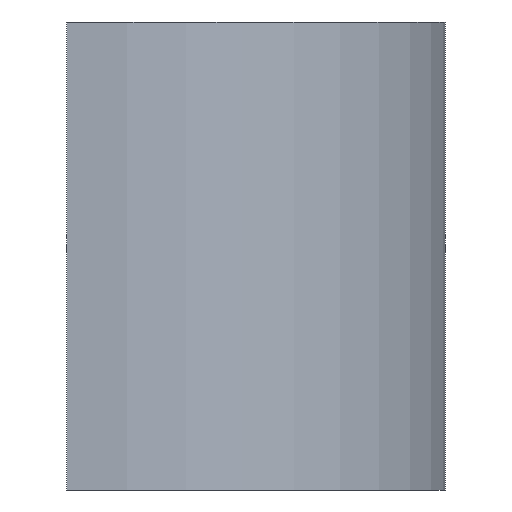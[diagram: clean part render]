
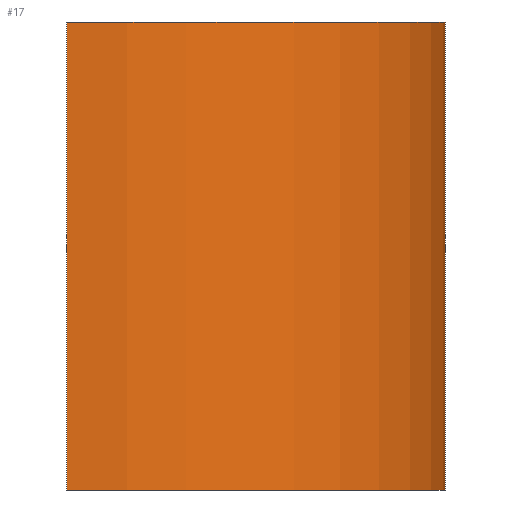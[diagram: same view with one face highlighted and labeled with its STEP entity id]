
A CAD part, left-side view. The second image highlights one B-rep face of the part: STEP entity #17.
In plain terms, the highlighted cylindrical face has radius 16 mm (diameter 32 mm), a partial arc.
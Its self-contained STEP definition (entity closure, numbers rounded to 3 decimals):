
#17 = ADVANCED_FACE('',(#18),#33,.T.);
#18 = FACE_BOUND('',#19,.F.);
#19 = EDGE_LOOP('',(#20,#56,#82,#111));
#20 = ORIENTED_EDGE('',*,*,#21,.F.);
#21 = EDGE_CURVE('',#22,#24,#26,.T.);
#22 = VERTEX_POINT('',#23);
#23 = CARTESIAN_POINT('',(30.031,22.5,0.5));
#24 = VERTEX_POINT('',#25);
#25 = CARTESIAN_POINT('',(60.,13.754,0.5));
#26 = SURFACE_CURVE('',#27,(#32,#44),.PCURVE_S1.);
#27 = CIRCLE('',#28,16.);
#28 = AXIS2_PLACEMENT_3D('',#29,#30,#31);
#29 = CARTESIAN_POINT('',(46.,21.5,0.5));
#30 = DIRECTION('',(0.,0.,1.));
#31 = DIRECTION('',(1.,0.,0.));
#32 = PCURVE('',#33,#38);
#33 = CYLINDRICAL_SURFACE('',#34,16.);
#34 = AXIS2_PLACEMENT_3D('',#35,#36,#37);
#35 = CARTESIAN_POINT('',(46.,21.5,0.5));
#36 = DIRECTION('',(-0.,-0.,-1.));
#37 = DIRECTION('',(1.,0.,0.));
#38 = DEFINITIONAL_REPRESENTATION('',(#39),#43);
#39 = LINE('',#40,#41);
#40 = CARTESIAN_POINT('',(-0.,0.));
#41 = VECTOR('',#42,1.);
#42 = DIRECTION('',(-1.,0.));
#43 = ( GEOMETRIC_REPRESENTATION_CONTEXT(2) 
PARAMETRIC_REPRESENTATION_CONTEXT() REPRESENTATION_CONTEXT('2D SPACE',''
  ) );
#44 = PCURVE('',#45,#50);
#45 = PLANE('',#46);
#46 = AXIS2_PLACEMENT_3D('',#47,#48,#49);
#47 = CARTESIAN_POINT('',(46.,21.5,0.5));
#48 = DIRECTION('',(0.,0.,1.));
#49 = DIRECTION('',(1.,0.,-0.));
#50 = DEFINITIONAL_REPRESENTATION('',(#51),#55);
#51 = CIRCLE('',#52,16.);
#52 = AXIS2_PLACEMENT_2D('',#53,#54);
#53 = CARTESIAN_POINT('',(0.,0.));
#54 = DIRECTION('',(1.,0.));
#55 = ( GEOMETRIC_REPRESENTATION_CONTEXT(2) 
PARAMETRIC_REPRESENTATION_CONTEXT() REPRESENTATION_CONTEXT('2D SPACE',''
  ) );
#56 = ORIENTED_EDGE('',*,*,#57,.F.);
#57 = EDGE_CURVE('',#58,#22,#60,.T.);
#58 = VERTEX_POINT('',#59);
#59 = CARTESIAN_POINT('',(30.031,22.5,21.5));
#60 = SURFACE_CURVE('',#61,(#65,#71),.PCURVE_S1.);
#61 = LINE('',#62,#63);
#62 = CARTESIAN_POINT('',(30.031,22.5,0.5));
#63 = VECTOR('',#64,1.);
#64 = DIRECTION('',(-0.,-0.,-1.));
#65 = PCURVE('',#33,#66);
#66 = DEFINITIONAL_REPRESENTATION('',(#67),#70);
#67 = B_SPLINE_CURVE_WITH_KNOTS('',1,(#68,#69),.UNSPECIFIED.,.F.,.F.,(2,
    2),(-21.,0.),.PIECEWISE_BEZIER_KNOTS.);
#68 = CARTESIAN_POINT('',(-3.079,-21.));
#69 = CARTESIAN_POINT('',(-3.079,0.));
#70 = ( GEOMETRIC_REPRESENTATION_CONTEXT(2) 
PARAMETRIC_REPRESENTATION_CONTEXT() REPRESENTATION_CONTEXT('2D SPACE',''
  ) );
#71 = PCURVE('',#72,#77);
#72 = PLANE('',#73);
#73 = AXIS2_PLACEMENT_3D('',#74,#75,#76);
#74 = CARTESIAN_POINT('',(29.,22.5,-0.5));
#75 = DIRECTION('',(0.,1.,0.));
#76 = DIRECTION('',(0.,0.,1.));
#77 = DEFINITIONAL_REPRESENTATION('',(#78),#81);
#78 = B_SPLINE_CURVE_WITH_KNOTS('',1,(#79,#80),.UNSPECIFIED.,.F.,.F.,(2,
    2),(-21.,0.),.PIECEWISE_BEZIER_KNOTS.);
#79 = CARTESIAN_POINT('',(22.,1.031));
#80 = CARTESIAN_POINT('',(1.,1.031));
#81 = ( GEOMETRIC_REPRESENTATION_CONTEXT(2) 
PARAMETRIC_REPRESENTATION_CONTEXT() REPRESENTATION_CONTEXT('2D SPACE',''
  ) );
#82 = ORIENTED_EDGE('',*,*,#83,.T.);
#83 = EDGE_CURVE('',#58,#84,#86,.T.);
#84 = VERTEX_POINT('',#85);
#85 = CARTESIAN_POINT('',(60.,13.754,21.5));
#86 = SURFACE_CURVE('',#87,(#92,#99),.PCURVE_S1.);
#87 = CIRCLE('',#88,16.);
#88 = AXIS2_PLACEMENT_3D('',#89,#90,#91);
#89 = CARTESIAN_POINT('',(46.,21.5,21.5));
#90 = DIRECTION('',(0.,0.,1.));
#91 = DIRECTION('',(1.,0.,0.));
#92 = PCURVE('',#33,#93);
#93 = DEFINITIONAL_REPRESENTATION('',(#94),#98);
#94 = LINE('',#95,#96);
#95 = CARTESIAN_POINT('',(-0.,-21.));
#96 = VECTOR('',#97,1.);
#97 = DIRECTION('',(-1.,0.));
#98 = ( GEOMETRIC_REPRESENTATION_CONTEXT(2) 
PARAMETRIC_REPRESENTATION_CONTEXT() REPRESENTATION_CONTEXT('2D SPACE',''
  ) );
#99 = PCURVE('',#100,#105);
#100 = PLANE('',#101);
#101 = AXIS2_PLACEMENT_3D('',#102,#103,#104);
#102 = CARTESIAN_POINT('',(46.,21.5,21.5));
#103 = DIRECTION('',(0.,0.,1.));
#104 = DIRECTION('',(1.,0.,-0.));
#105 = DEFINITIONAL_REPRESENTATION('',(#106),#110);
#106 = CIRCLE('',#107,16.);
#107 = AXIS2_PLACEMENT_2D('',#108,#109);
#108 = CARTESIAN_POINT('',(0.,0.));
#109 = DIRECTION('',(1.,0.));
#110 = ( GEOMETRIC_REPRESENTATION_CONTEXT(2) 
PARAMETRIC_REPRESENTATION_CONTEXT() REPRESENTATION_CONTEXT('2D SPACE',''
  ) );
#111 = ORIENTED_EDGE('',*,*,#112,.T.);
#112 = EDGE_CURVE('',#84,#24,#113,.T.);
#113 = SURFACE_CURVE('',#114,(#118,#124),.PCURVE_S1.);
#114 = LINE('',#115,#116);
#115 = CARTESIAN_POINT('',(60.,13.754,0.5));
#116 = VECTOR('',#117,1.);
#117 = DIRECTION('',(-0.,-0.,-1.));
#118 = PCURVE('',#33,#119);
#119 = DEFINITIONAL_REPRESENTATION('',(#120),#123);
#120 = B_SPLINE_CURVE_WITH_KNOTS('',1,(#121,#122),.UNSPECIFIED.,.F.,.F.,
  (2,2),(-21.,0.),.PIECEWISE_BEZIER_KNOTS.);
#121 = CARTESIAN_POINT('',(-5.778,-21.));
#122 = CARTESIAN_POINT('',(-5.778,0.));
#123 = ( GEOMETRIC_REPRESENTATION_CONTEXT(2) 
PARAMETRIC_REPRESENTATION_CONTEXT() REPRESENTATION_CONTEXT('2D SPACE',''
  ) );
#124 = PCURVE('',#125,#130);
#125 = PLANE('',#126);
#126 = AXIS2_PLACEMENT_3D('',#127,#128,#129);
#127 = CARTESIAN_POINT('',(60.,4.5,-0.5));
#128 = DIRECTION('',(1.,0.,0.));
#129 = DIRECTION('',(0.,0.,1.));
#130 = DEFINITIONAL_REPRESENTATION('',(#131),#134);
#131 = B_SPLINE_CURVE_WITH_KNOTS('',1,(#132,#133),.UNSPECIFIED.,.F.,.F.,
  (2,2),(-21.,0.),.PIECEWISE_BEZIER_KNOTS.);
#132 = CARTESIAN_POINT('',(22.,-9.254));
#133 = CARTESIAN_POINT('',(1.,-9.254));
#134 = ( GEOMETRIC_REPRESENTATION_CONTEXT(2) 
PARAMETRIC_REPRESENTATION_CONTEXT() REPRESENTATION_CONTEXT('2D SPACE',''
  ) );
